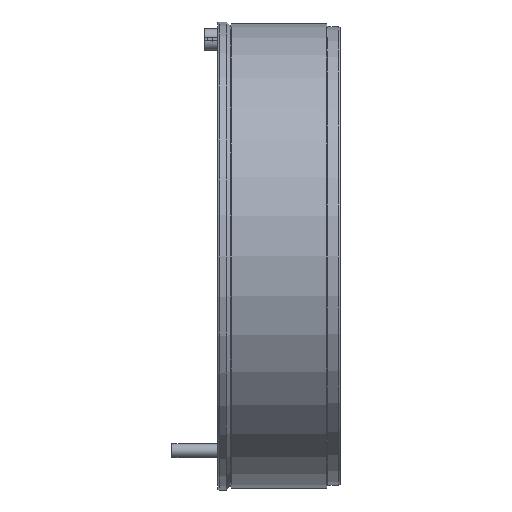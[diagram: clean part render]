
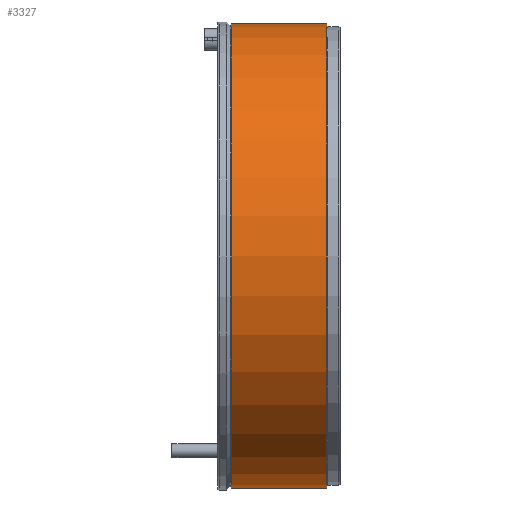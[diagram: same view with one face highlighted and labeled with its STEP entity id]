
A CAD part, left-side view. The second image highlights one B-rep face of the part: STEP entity #3327.
In plain terms, the highlighted cylindrical face has radius 247 mm (diameter 494 mm), a partial arc.
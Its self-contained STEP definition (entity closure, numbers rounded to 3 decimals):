
#362 = CARTESIAN_POINT ( 'NONE',  ( 0., 116., -247. ) ) ;
#511 = VERTEX_POINT ( 'NONE', #9796 ) ;
#562 = EDGE_CURVE ( 'NONE', #3173, #11340, #6116, .T. ) ;
#582 = CARTESIAN_POINT ( 'NONE',  ( 0., 14., 247. ) ) ;
#960 = ORIENTED_EDGE ( 'NONE', *, *, #12331, .F. ) ;
#1133 = EDGE_CURVE ( 'NONE', #511, #3173, #2181, .T. ) ;
#1465 = AXIS2_PLACEMENT_3D ( 'NONE', #10442, #9297, #12610 ) ;
#1766 = CARTESIAN_POINT ( 'NONE',  ( 0., 14., 0. ) ) ;
#1771 = CARTESIAN_POINT ( 'NONE',  ( 0., 0., 0. ) ) ;
#2181 = CIRCLE ( 'NONE', #1465, 247. ) ;
#2487 = CARTESIAN_POINT ( 'NONE',  ( 0., 0., -247. ) ) ;
#2686 = CYLINDRICAL_SURFACE ( 'NONE', #12176, 247. ) ;
#2813 = DIRECTION ( 'NONE',  ( 0., 0., -1. ) ) ;
#2970 = DIRECTION ( 'NONE',  ( 0., -1., 0. ) ) ;
#3173 = VERTEX_POINT ( 'NONE', #362 ) ;
#3266 = VERTEX_POINT ( 'NONE', #582 ) ;
#3327 = ADVANCED_FACE ( 'NONE', ( #8461 ), #2686, .T. ) ;
#6116 = LINE ( 'NONE', #2487, #7286 ) ;
#6566 = LINE ( 'NONE', #11039, #12017 ) ;
#7286 = VECTOR ( 'NONE', #13445, 1000. ) ;
#7410 = CARTESIAN_POINT ( 'NONE',  ( 0., 14., -247. ) ) ;
#7915 = CIRCLE ( 'NONE', #12163, 247. ) ;
#8461 = FACE_OUTER_BOUND ( 'NONE', #10223, .T. ) ;
#9297 = DIRECTION ( 'NONE',  ( 0., -1., 0. ) ) ;
#9360 = DIRECTION ( 'NONE',  ( 0., 0., -1. ) ) ;
#9796 = CARTESIAN_POINT ( 'NONE',  ( 0., 116., 247. ) ) ;
#9802 = ORIENTED_EDGE ( 'NONE', *, *, #562, .T. ) ;
#9986 = ORIENTED_EDGE ( 'NONE', *, *, #1133, .T. ) ;
#10223 = EDGE_LOOP ( 'NONE', ( #960, #9986, #9802, #12079 ) ) ;
#10442 = CARTESIAN_POINT ( 'NONE',  ( 0., 116., 0. ) ) ;
#11039 = CARTESIAN_POINT ( 'NONE',  ( 0., 0., 247. ) ) ;
#11167 = EDGE_CURVE ( 'NONE', #3266, #11340, #7915, .T. ) ;
#11340 = VERTEX_POINT ( 'NONE', #7410 ) ;
#12017 = VECTOR ( 'NONE', #12150, 1000. ) ;
#12079 = ORIENTED_EDGE ( 'NONE', *, *, #11167, .F. ) ;
#12150 = DIRECTION ( 'NONE',  ( 0., -1., 0. ) ) ;
#12163 = AXIS2_PLACEMENT_3D ( 'NONE', #1766, #12657, #2813 ) ;
#12176 = AXIS2_PLACEMENT_3D ( 'NONE', #1771, #2970, #9360 ) ;
#12331 = EDGE_CURVE ( 'NONE', #511, #3266, #6566, .T. ) ;
#12610 = DIRECTION ( 'NONE',  ( 0., 0., -1. ) ) ;
#12657 = DIRECTION ( 'NONE',  ( 0., -1., 0. ) ) ;
#13445 = DIRECTION ( 'NONE',  ( 0., -1., 0. ) ) ;
